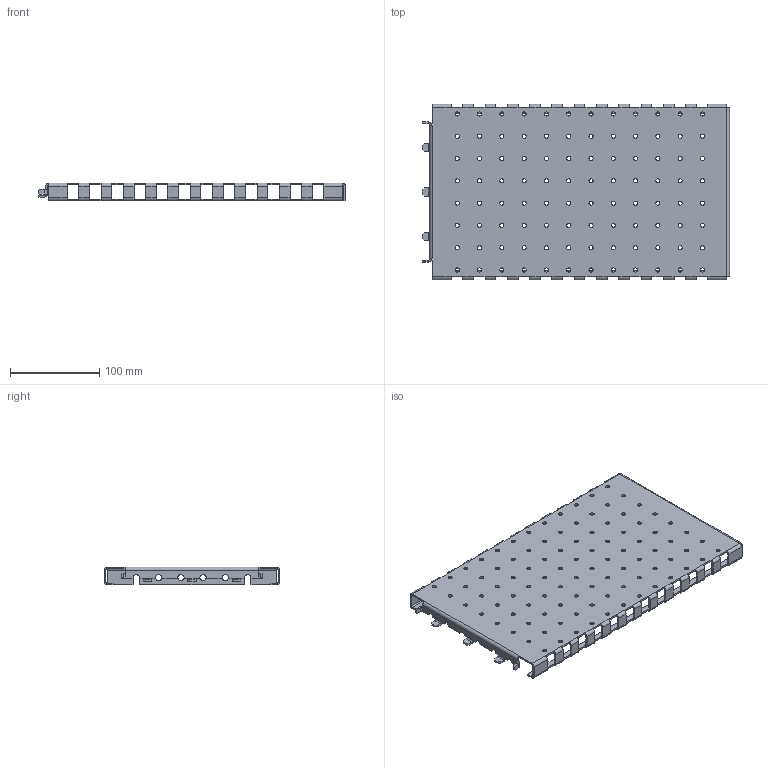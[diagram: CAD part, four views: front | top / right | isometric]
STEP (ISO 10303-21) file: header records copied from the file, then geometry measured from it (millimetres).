
FILE_DESCRIPTION(('STEP AP203'), '1');
FILE_NAME('Îãðàæäåíèå ñáîðíîé øèíû áîêîâîå ìîíòàæíîå 200õ450 ìì OptiBox M 420064 ÊÝÀÇ', '', ('UNSPECIFIED'), ('UNSPECIFIED'), 'C3D Converter', 'C3D Toolkit', '');
FILE_SCHEMA(('CONFIG_CONTROL_DESIGN'));
Length unit declared in the file: millimetre
Bounding box: 344.3 x 197 x 20 mm (x, y, z)
Volume: 156640.2 mm3; surface area: 165590.3 mm2
Topology: 1 solids, 1 shells, 470 faces, 1276 edges, 760 vertices
Faces by surface type: plane 244, cylinder 226
Full cylindrical faces by diameter (mm): 4.6 x96, 7.3 x4
Entity records: 14612 total; most frequent: DIRECTION 2570, CARTESIAN_POINT 2407, ORIENTED_EDGE 2352, EDGE_CURVE 1176, AXIS2_PLACEMENT_3D 923, EDGE_LOOP 770, VERTEX_POINT 760, LINE 724
